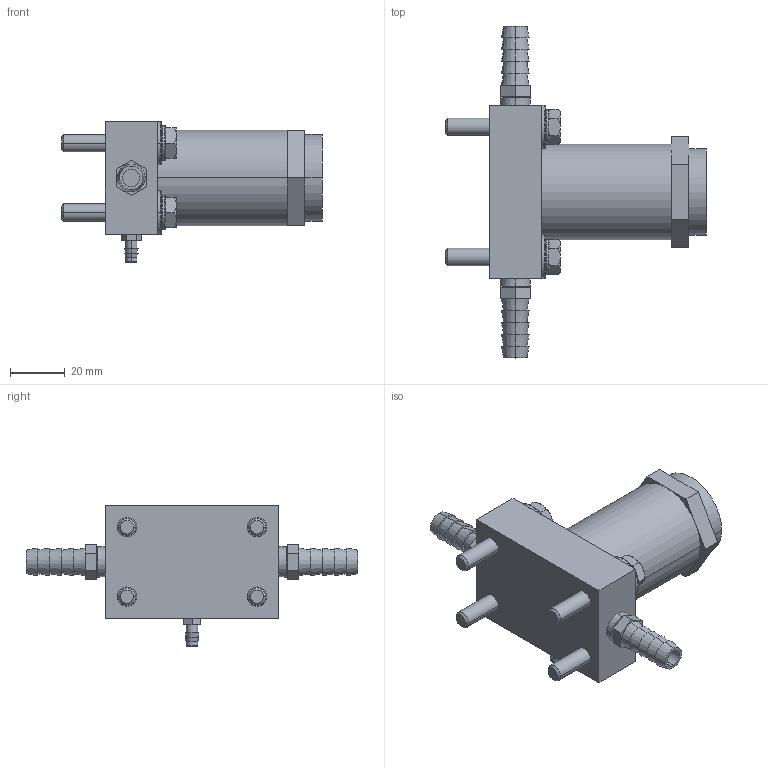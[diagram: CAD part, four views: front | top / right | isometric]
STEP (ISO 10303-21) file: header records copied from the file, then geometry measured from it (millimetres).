
FILE_DESCRIPTION((''),'2;1');
FILE_NAME('UAR3_ASM','2017-08-24T',('jennifer.elliott'),('CenterLine (Windsor) Ltd - Automation Components Division'),'PRO/ENGINEER BY PARAMETRIC TECHNOLOGY CORPORATION, 2015030','PRO/ENGINEER BY PARAMETRIC TECHNOLOGY CORPORATION, 2015030','');
FILE_SCHEMA(('AUTOMOTIVE_DESIGN { 1 0 10303 214 1 1 1 1 }'));
Length unit declared in the file: inch
Products named in the file (18): TMP_DWG-3DSOLID_37; TMP_DWG-3DSOLID_38; TMP_DWG-3DSOLID_39; TMP_DWG-3DSOLID_40; TMP_DWG-3DSOLID_41; TMP_DWG-3DSOLID_43; TMP_DWG-3DSOLID_44; LUMP_2; LUMP_6; LUMP_9; LUMP_14; TMP_DWG-3DSOLID_46_ASM; TMP_DWG-3DSOLID_47; TMP_DWG-3DSOLID_48; TMP_DWG-3DSOLID_69; TMP_DWG-3DSOLID_70; TMP_DWG-3DSOLID_71; UAR3_ASM
Assembly tree (17 placements, depth 3):
  UAR3_ASM
    TMP_DWG-3DSOLID_37
    TMP_DWG-3DSOLID_38
    TMP_DWG-3DSOLID_39
    TMP_DWG-3DSOLID_40
    TMP_DWG-3DSOLID_41
    TMP_DWG-3DSOLID_43
    TMP_DWG-3DSOLID_44
    TMP_DWG-3DSOLID_46_ASM
      LUMP_2
      LUMP_6
      LUMP_9
      LUMP_14
    TMP_DWG-3DSOLID_47
    TMP_DWG-3DSOLID_48
    TMP_DWG-3DSOLID_69
    TMP_DWG-3DSOLID_70
    TMP_DWG-3DSOLID_71
Bounding box: 95.25 x 121.41 x 51.59 mm (x, y, z)
Volume: 114989.5 mm3; surface area: 33288.5 mm2
Topology: 15 solids, 15 shells, 257 faces, 592 edges, 386 vertices
Faces by surface type: plane 115, cone 60, cylinder 54, torus 28
Entity records: 8772 total; most frequent: CARTESIAN_POINT 1772, DIRECTION 1366, ORIENTED_EDGE 1184, EDGE_CURVE 592, AXIS2_PLACEMENT_3D 566, VERTEX_POINT 386, EDGE_LOOP 300, CIRCLE 270
